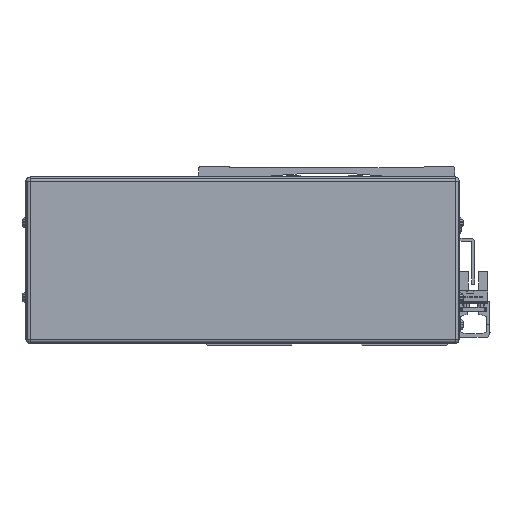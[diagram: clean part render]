
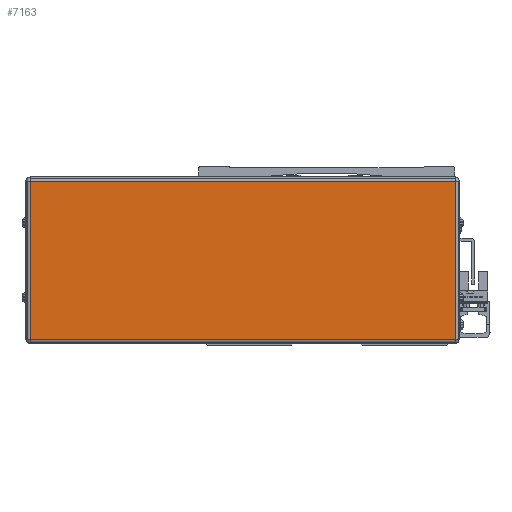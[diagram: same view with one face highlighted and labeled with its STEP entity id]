
A CAD part, front view. The second image highlights one B-rep face of the part: STEP entity #7163.
In plain terms, the highlighted planar face has unit normal (0, -1, 0).
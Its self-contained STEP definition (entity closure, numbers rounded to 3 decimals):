
#7163=ADVANCED_FACE('',(#14795),#14796,.F.);
#14795=FACE_OUTER_BOUND('',#24340,.T.);
#14796=PLANE('',#24341);
#24340=EDGE_LOOP('',(#44834,#44835,#44836,#44837));
#24341=AXIS2_PLACEMENT_3D('',#44838,#44839,#44840);
#44834=ORIENTED_EDGE('',*,*,#50185,.T.);
#44835=ORIENTED_EDGE('',*,*,#54529,.T.);
#44836=ORIENTED_EDGE('',*,*,#54976,.T.);
#44837=ORIENTED_EDGE('',*,*,#56991,.T.);
#44838=CARTESIAN_POINT('',(-340.5,-463.778,-8.));
#44839=DIRECTION('',(0.,1.0,0.));
#44840=DIRECTION('',(-1.0,0.,0.));
#50185=EDGE_CURVE('',#60166,#60164,#60167,.T.);
#54529=EDGE_CURVE('',#60164,#63383,#67169,.T.);
#54976=EDGE_CURVE('',#63383,#67795,#67797,.T.);
#56991=EDGE_CURVE('',#67795,#60166,#70378,.T.);
#60164=VERTEX_POINT('',#74334);
#60166=VERTEX_POINT('',#74336);
#60167=LINE('',#74337,#74338);
#63383=VERTEX_POINT('',#78981);
#67169=LINE('',#84715,#84716);
#67795=VERTEX_POINT('',#85647);
#67797=LINE('',#85649,#85650);
#70378=LINE('',#89401,#89402);
#74334=CARTESIAN_POINT('',(-442.7,-463.778,-46.));
#74336=CARTESIAN_POINT('',(-442.7,-463.778,30.));
#74337=CARTESIAN_POINT('',(-442.7,-463.778,-8.));
#74338=VECTOR('',#92903,10.0);
#78981=CARTESIAN_POINT('',(-238.3,-463.778,-46.));
#84715=CARTESIAN_POINT('',(-340.5,-463.778,-46.));
#84716=VECTOR('',#98199,10.0);
#85647=CARTESIAN_POINT('',(-238.3,-463.778,30.));
#85649=CARTESIAN_POINT('',(-238.3,-463.778,-8.));
#85650=VECTOR('',#98675,10.0);
#89401=CARTESIAN_POINT('',(-340.5,-463.778,30.));
#89402=VECTOR('',#100849,10.0);
#92903=DIRECTION('',(0.0,0.,-1.0));
#98199=DIRECTION('',(1.0,0.,0.));
#98675=DIRECTION('',(0.0,0.,1.0));
#100849=DIRECTION('',(-1.0,0.,0.));
